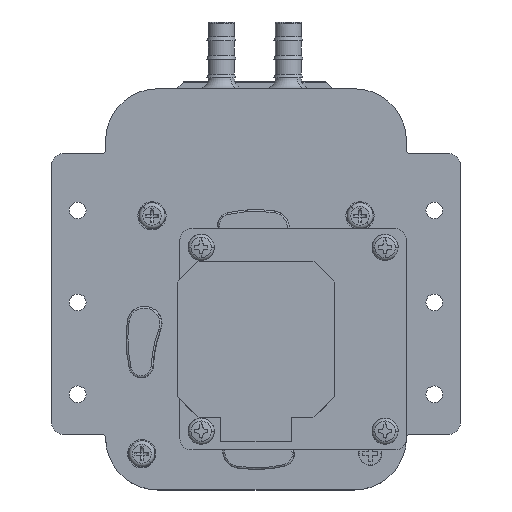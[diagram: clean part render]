
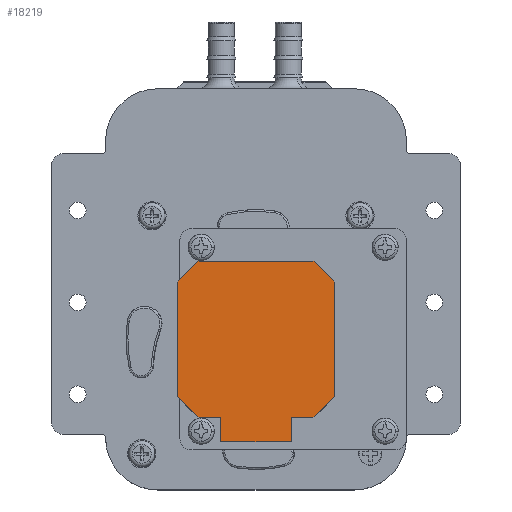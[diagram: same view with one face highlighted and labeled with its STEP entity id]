
A CAD part, top view. The second image highlights one B-rep face of the part: STEP entity #18219.
In plain terms, the highlighted planar face has unit normal (0, 0, 1) as drawn and (0, 0, -1) by its records, which use the part's own axes.
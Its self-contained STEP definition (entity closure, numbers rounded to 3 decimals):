
#146 = VERTEX_POINT ( 'NONE', #31005 ) ;
#159 = ORIENTED_EDGE ( 'NONE', *, *, #12987, .T. ) ;
#527 = ORIENTED_EDGE ( 'NONE', *, *, #30394, .T. ) ;
#713 = PLANE ( 'NONE',  #11198 ) ;
#839 = CARTESIAN_POINT ( 'NONE',  ( 9.5, -21., -49.5 ) ) ;
#1238 = CARTESIAN_POINT ( 'NONE',  ( 0., 0., -49.5 ) ) ;
#1515 = VECTOR ( 'NONE', #26852, 1000. ) ;
#1657 = VECTOR ( 'NONE', #35284, 1000. ) ;
#2137 = VECTOR ( 'NONE', #9891, 1000. ) ;
#2899 = LINE ( 'NONE', #13833, #14178 ) ;
#3120 = EDGE_CURVE ( 'NONE', #25965, #21779, #20039, .T. ) ;
#3323 = VERTEX_POINT ( 'NONE', #21100 ) ;
#3420 = CARTESIAN_POINT ( 'NONE',  ( 0., 0., -49.5 ) ) ;
#4300 = CARTESIAN_POINT ( 'NONE',  ( -9.5, -27.7, -49.5 ) ) ;
#4476 = VERTEX_POINT ( 'NONE', #29113 ) ;
#5065 = CIRCLE ( 'NONE', #12597, 26. ) ;
#5467 = DIRECTION ( 'NONE',  ( -1., 0., 0. ) ) ;
#7841 = DIRECTION ( 'NONE',  ( 0., 0., -1. ) ) ;
#8407 = ORIENTED_EDGE ( 'NONE', *, *, #31606, .T. ) ;
#8774 = VECTOR ( 'NONE', #10291, 1000. ) ;
#8781 = DIRECTION ( 'NONE',  ( 0., 0., -1. ) ) ;
#9055 = FACE_OUTER_BOUND ( 'NONE', #33266, .T. ) ;
#9131 = CARTESIAN_POINT ( 'NONE',  ( 0., 0., -49.5 ) ) ;
#9891 = DIRECTION ( 'NONE',  ( -1., 0., 0. ) ) ;
#10291 = DIRECTION ( 'NONE',  ( 0., 1., 0. ) ) ;
#11198 = AXIS2_PLACEMENT_3D ( 'NONE', #1238, #25614, #12336 ) ;
#11390 = CARTESIAN_POINT ( 'NONE',  ( 15.33, -21., -49.5 ) ) ;
#11500 = CARTESIAN_POINT ( 'NONE',  ( 21., 15.33, -49.5 ) ) ;
#12336 = DIRECTION ( 'NONE',  ( -1., 0., 0. ) ) ;
#12597 = AXIS2_PLACEMENT_3D ( 'NONE', #13662, #7841, #5467 ) ;
#12711 = VERTEX_POINT ( 'NONE', #839 ) ;
#12715 = CARTESIAN_POINT ( 'NONE',  ( 21., -15.33, -49.5 ) ) ;
#12886 = CARTESIAN_POINT ( 'NONE',  ( -21., -15.33, -49.5 ) ) ;
#12943 = ORIENTED_EDGE ( 'NONE', *, *, #34642, .F. ) ;
#12987 = EDGE_CURVE ( 'NONE', #15578, #29626, #13895, .T. ) ;
#12988 = VERTEX_POINT ( 'NONE', #25512 ) ;
#13142 = DIRECTION ( 'NONE',  ( 0., 0., -1. ) ) ;
#13208 = LINE ( 'NONE', #35207, #8774 ) ;
#13388 = EDGE_CURVE ( 'NONE', #16591, #25965, #19481, .T. ) ;
#13662 = CARTESIAN_POINT ( 'NONE',  ( 0., 0., -49.5 ) ) ;
#13833 = CARTESIAN_POINT ( 'NONE',  ( 15.33, -21., -49.5 ) ) ;
#13895 = LINE ( 'NONE', #14435, #25564 ) ;
#14178 = VECTOR ( 'NONE', #32929, 1000. ) ;
#14221 = CARTESIAN_POINT ( 'NONE',  ( 21., 15.33, -49.5 ) ) ;
#14435 = CARTESIAN_POINT ( 'NONE',  ( -21., -15.33, -49.5 ) ) ;
#14903 = ORIENTED_EDGE ( 'NONE', *, *, #23906, .T. ) ;
#15578 = VERTEX_POINT ( 'NONE', #12886 ) ;
#15620 = VECTOR ( 'NONE', #21257, 1000. ) ;
#15841 = CARTESIAN_POINT ( 'NONE',  ( -15.33, 21., -49.5 ) ) ;
#16424 = DIRECTION ( 'NONE',  ( -1., 0., 0. ) ) ;
#16591 = VERTEX_POINT ( 'NONE', #11500 ) ;
#16962 = ORIENTED_EDGE ( 'NONE', *, *, #17211, .T. ) ;
#17013 = CIRCLE ( 'NONE', #21052, 26. ) ;
#17211 = EDGE_CURVE ( 'NONE', #12988, #146, #13208, .T. ) ;
#17274 = VERTEX_POINT ( 'NONE', #32122 ) ;
#18219 = ADVANCED_FACE ( 'NONE', ( #9055 ), #713, .T. ) ;
#18268 = EDGE_CURVE ( 'NONE', #4476, #15578, #17013, .T. ) ;
#18433 = CARTESIAN_POINT ( 'NONE',  ( 15.33, -21., -49.5 ) ) ;
#18601 = ORIENTED_EDGE ( 'NONE', *, *, #32225, .F. ) ;
#19481 = LINE ( 'NONE', #14221, #32580 ) ;
#19591 = VERTEX_POINT ( 'NONE', #24337 ) ;
#20039 = CIRCLE ( 'NONE', #26421, 26. ) ;
#20224 = DIRECTION ( 'NONE',  ( -1., 0., 0. ) ) ;
#21052 = AXIS2_PLACEMENT_3D ( 'NONE', #3420, #23249, #22890 ) ;
#21075 = ORIENTED_EDGE ( 'NONE', *, *, #18268, .T. ) ;
#21100 = CARTESIAN_POINT ( 'NONE',  ( 15.33, 21., -49.5 ) ) ;
#21257 = DIRECTION ( 'NONE',  ( 0., 1., 0. ) ) ;
#21779 = VERTEX_POINT ( 'NONE', #11390 ) ;
#22503 = CARTESIAN_POINT ( 'NONE',  ( -21., 15.33, -49.5 ) ) ;
#22682 = ORIENTED_EDGE ( 'NONE', *, *, #3120, .T. ) ;
#22890 = DIRECTION ( 'NONE',  ( -1., 0., 0. ) ) ;
#22980 = CIRCLE ( 'NONE', #30538, 26. ) ;
#23249 = DIRECTION ( 'NONE',  ( 0., 0., -1. ) ) ;
#23906 = EDGE_CURVE ( 'NONE', #17274, #3323, #32369, .T. ) ;
#24010 = ORIENTED_EDGE ( 'NONE', *, *, #33341, .T. ) ;
#24337 = CARTESIAN_POINT ( 'NONE',  ( 9.5, -27.7, -49.5 ) ) ;
#25113 = DIRECTION ( 'NONE',  ( 0., -1., 0. ) ) ;
#25512 = CARTESIAN_POINT ( 'NONE',  ( -9.5, -27.7, -49.5 ) ) ;
#25564 = VECTOR ( 'NONE', #33525, 1000. ) ;
#25614 = DIRECTION ( 'NONE',  ( 0., 0., -1. ) ) ;
#25965 = VERTEX_POINT ( 'NONE', #12715 ) ;
#26421 = AXIS2_PLACEMENT_3D ( 'NONE', #32597, #13142, #16424 ) ;
#26852 = DIRECTION ( 'NONE',  ( 1., 0., 0. ) ) ;
#27691 = ORIENTED_EDGE ( 'NONE', *, *, #33947, .T. ) ;
#29015 = ORIENTED_EDGE ( 'NONE', *, *, #13388, .T. ) ;
#29113 = CARTESIAN_POINT ( 'NONE',  ( -15.33, -21., -49.5 ) ) ;
#29575 = LINE ( 'NONE', #4300, #1515 ) ;
#29626 = VERTEX_POINT ( 'NONE', #22503 ) ;
#30394 = EDGE_CURVE ( 'NONE', #21779, #12711, #2899, .T. ) ;
#30538 = AXIS2_PLACEMENT_3D ( 'NONE', #9131, #8781, #20224 ) ;
#31005 = CARTESIAN_POINT ( 'NONE',  ( -9.5, -21., -49.5 ) ) ;
#31606 = EDGE_CURVE ( 'NONE', #29626, #17274, #22980, .T. ) ;
#32122 = CARTESIAN_POINT ( 'NONE',  ( -15.33, 21., -49.5 ) ) ;
#32225 = EDGE_CURVE ( 'NONE', #12988, #19591, #29575, .T. ) ;
#32265 = LINE ( 'NONE', #18433, #2137 ) ;
#32369 = LINE ( 'NONE', #15841, #1657 ) ;
#32580 = VECTOR ( 'NONE', #25113, 1000. ) ;
#32597 = CARTESIAN_POINT ( 'NONE',  ( 0., 0., -49.5 ) ) ;
#32929 = DIRECTION ( 'NONE',  ( -1., 0., 0. ) ) ;
#33266 = EDGE_LOOP ( 'NONE', ( #24010, #29015, #22682, #527, #12943, #18601, #16962, #27691, #21075, #159, #8407, #14903 ) ) ;
#33341 = EDGE_CURVE ( 'NONE', #3323, #16591, #5065, .T. ) ;
#33525 = DIRECTION ( 'NONE',  ( 0., 1., 0. ) ) ;
#33947 = EDGE_CURVE ( 'NONE', #146, #4476, #32265, .T. ) ;
#34642 = EDGE_CURVE ( 'NONE', #19591, #12711, #35091, .T. ) ;
#34719 = CARTESIAN_POINT ( 'NONE',  ( 9.5, -27.7, -49.5 ) ) ;
#35091 = LINE ( 'NONE', #34719, #15620 ) ;
#35207 = CARTESIAN_POINT ( 'NONE',  ( -9.5, -27.7, -49.5 ) ) ;
#35284 = DIRECTION ( 'NONE',  ( 1., 0., 0. ) ) ;
